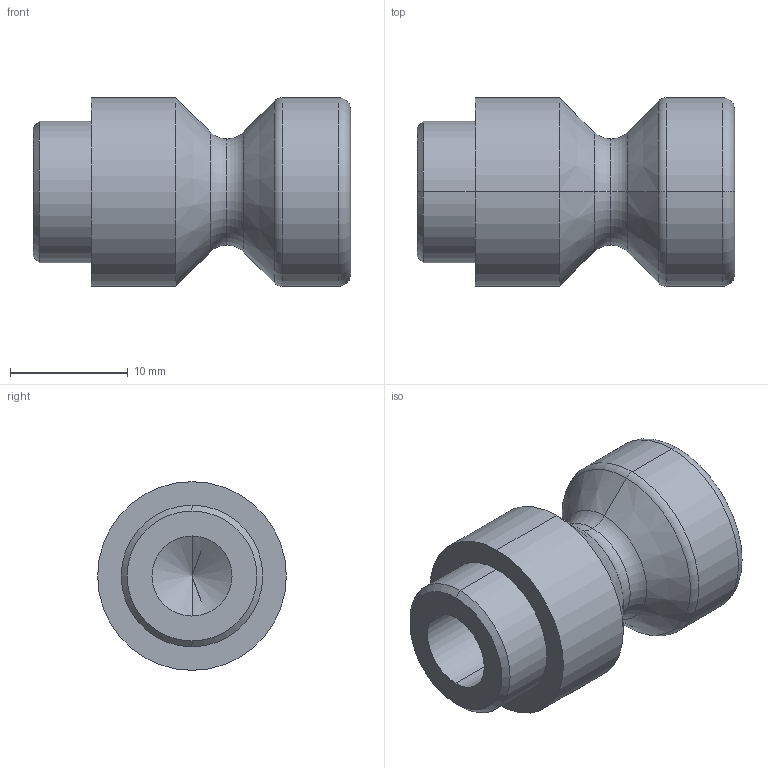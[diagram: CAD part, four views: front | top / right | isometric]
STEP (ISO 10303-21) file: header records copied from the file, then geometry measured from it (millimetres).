
FILE_DESCRIPTION (( 'STEP AP203' ), '1' );
FILE_NAME ('45270.STEP', '2013-04-15T11:10:33', ( '' ), ( '' ), 'SwSTEP 2.0', 'SolidWorks 2011', '' );
FILE_SCHEMA (( 'CONFIG_CONTROL_DESIGN' ));
Length unit declared in the file: millimetre
Products named in the file (1): 45270
Bounding box: 26.9 x 16 x 16 mm (x, y, z)
Volume: 3494.2 mm3; surface area: 2048.1 mm2
Topology: 1 solids, 1 shells, 34 faces, 72 edges, 41 vertices
Faces by surface type: plane 10, torus 8, cylinder 8, cone 8
Entity records: 971 total; most frequent: DIRECTION 176, CARTESIAN_POINT 146, ORIENTED_EDGE 140, AXIS2_PLACEMENT_3D 71, EDGE_CURVE 70, VERTEX_POINT 41, EDGE_LOOP 37, CIRCLE 36
